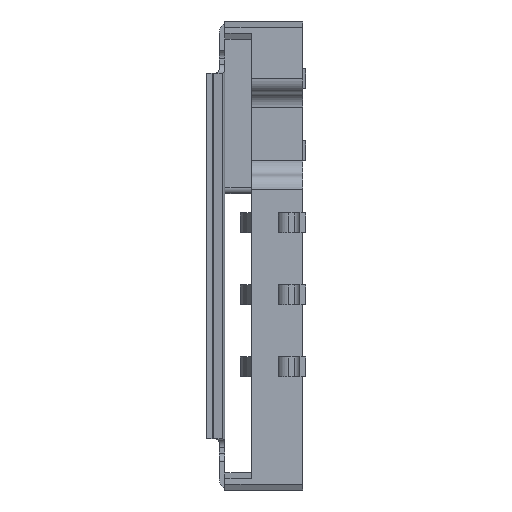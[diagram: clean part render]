
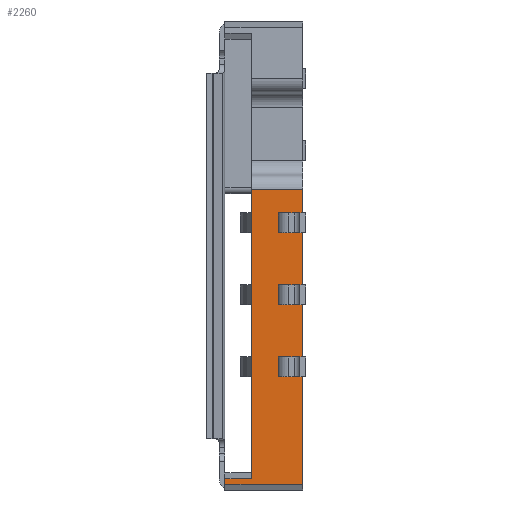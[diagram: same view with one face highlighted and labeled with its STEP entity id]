
A CAD part, left-side view. The second image highlights one B-rep face of the part: STEP entity #2260.
In plain terms, the highlighted planar face has unit normal (-1, 0, 0).
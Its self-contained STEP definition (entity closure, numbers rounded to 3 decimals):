
#602 = VERTEX_POINT ( 'NONE', #4062 ) ;
#604 = EDGE_CURVE ( 'NONE', #602, #605, #4061, .T. ) ;
#605 = VERTEX_POINT ( 'NONE', #4057 ) ;
#1389 = VERTEX_POINT ( 'NONE', #5787 ) ;
#1390 = ORIENTED_EDGE ( 'NONE', *, *, #1394, .T. ) ;
#1391 = ORIENTED_EDGE ( 'NONE', *, *, #1392, .T. ) ;
#1392 = EDGE_CURVE ( 'NONE', #1395, #1937, #5786, .T. ) ;
#1393 = EDGE_CURVE ( 'NONE', #1389, #1938, #5782, .T. ) ;
#1394 = EDGE_CURVE ( 'NONE', #1389, #1395, #5841, .T. ) ;
#1395 = VERTEX_POINT ( 'NONE', #5837 ) ;
#1933 = ORIENTED_EDGE ( 'NONE', *, *, #1935, .T. ) ;
#1934 = ORIENTED_EDGE ( 'NONE', *, *, #1936, .T. ) ;
#1935 = EDGE_CURVE ( 'NONE', #1941, #2311, #7418, .T. ) ;
#1936 = EDGE_CURVE ( 'NONE', #1937, #1938, #7414, .T. ) ;
#1937 = VERTEX_POINT ( 'NONE', #7410 ) ;
#1938 = VERTEX_POINT ( 'NONE', #7409 ) ;
#1939 = ORIENTED_EDGE ( 'NONE', *, *, #1393, .F. ) ;
#1940 = EDGE_LOOP ( 'NONE', ( #1934, #1939, #1390, #1391 ) ) ;
#1941 = VERTEX_POINT ( 'NONE', #7467 ) ;
#2255 = VERTEX_POINT ( 'NONE', #8057 ) ;
#2256 = ORIENTED_EDGE ( 'NONE', *, *, #2257, .T. ) ;
#2257 = EDGE_CURVE ( 'NONE', #2255, #2332, #8056, .T. ) ;
#2258 = EDGE_CURVE ( 'NONE', #2328, #2334, #8052, .T. ) ;
#2259 = EDGE_CURVE ( 'NONE', #2255, #2334, #8048, .T. ) ;
#2260 = ADVANCED_FACE ( 'NONE', ( #8109, #8108, #8107, #8106 ), #8105, .F. ) ;
#2261 = EDGE_LOOP ( 'NONE', ( #2333, #2335, #2256, #2329 ) ) ;
#2301 = ORIENTED_EDGE ( 'NONE', *, *, #2302, .T. ) ;
#2302 = EDGE_CURVE ( 'NONE', #2307, #1941, #8174, .T. ) ;
#2303 = VERTEX_POINT ( 'NONE', #8170 ) ;
#2304 = ORIENTED_EDGE ( 'NONE', *, *, #604, .F. ) ;
#2305 = ORIENTED_EDGE ( 'NONE', *, *, #2308, .F. ) ;
#2306 = EDGE_CURVE ( 'NONE', #2320, #2307, #8169, .T. ) ;
#2307 = VERTEX_POINT ( 'NONE', #8165 ) ;
#2308 = EDGE_CURVE ( 'NONE', #2317, #602, #8164, .T. ) ;
#2309 = ORIENTED_EDGE ( 'NONE', *, *, #2306, .T. ) ;
#2310 = ORIENTED_EDGE ( 'NONE', *, *, #2314, .T. ) ;
#2311 = VERTEX_POINT ( 'NONE', #8160 ) ;
#2312 = VERTEX_POINT ( 'NONE', #8159 ) ;
#2313 = VERTEX_POINT ( 'NONE', #8158 ) ;
#2314 = EDGE_CURVE ( 'NONE', #2312, #2313, #8157, .T. ) ;
#2315 = ORIENTED_EDGE ( 'NONE', *, *, #2316, .T. ) ;
#2316 = EDGE_CURVE ( 'NONE', #2303, #2312, #8153, .T. ) ;
#2317 = VERTEX_POINT ( 'NONE', #8149 ) ;
#2318 = EDGE_CURVE ( 'NONE', #2320, #2311, #8148, .T. ) ;
#2319 = EDGE_CURVE ( 'NONE', #2303, #2317, #8205, .T. ) ;
#2320 = VERTEX_POINT ( 'NONE', #8201 ) ;
#2321 = ORIENTED_EDGE ( 'NONE', *, *, #2319, .F. ) ;
#2322 = EDGE_CURVE ( 'NONE', #605, #2313, #8200, .T. ) ;
#2323 = EDGE_LOOP ( 'NONE', ( #2324, #2309, #2301, #1933 ) ) ;
#2324 = ORIENTED_EDGE ( 'NONE', *, *, #2318, .F. ) ;
#2325 = ORIENTED_EDGE ( 'NONE', *, *, #2322, .F. ) ;
#2328 = VERTEX_POINT ( 'NONE', #8192 ) ;
#2329 = ORIENTED_EDGE ( 'NONE', *, *, #2330, .T. ) ;
#2330 = EDGE_CURVE ( 'NONE', #2332, #2328, #8191, .T. ) ;
#2331 = EDGE_LOOP ( 'NONE', ( #2310, #2325, #2304, #2305, #2321, #2315 ) ) ;
#2332 = VERTEX_POINT ( 'NONE', #8187 ) ;
#2333 = ORIENTED_EDGE ( 'NONE', *, *, #2258, .T. ) ;
#2334 = VERTEX_POINT ( 'NONE', #8186 ) ;
#2335 = ORIENTED_EDGE ( 'NONE', *, *, #2259, .F. ) ;
#4057 = CARTESIAN_POINT ( 'NONE',  ( -5.9, 1.9, 2.45 ) ) ;
#4058 = DIRECTION ( 'NONE',  ( 0., 0., 1. ) ) ;
#4059 = VECTOR ( 'NONE', #4058, 1000. ) ;
#4060 = CARTESIAN_POINT ( 'NONE',  ( -5.9, 1.9, -7.95 ) ) ;
#4061 = LINE ( 'NONE', #4060, #4059 ) ;
#4062 = CARTESIAN_POINT ( 'NONE',  ( -5.9, 1.9, -7.75 ) ) ;
#5780 = VECTOR ( 'NONE', #5842, 1000. ) ;
#5781 = CARTESIAN_POINT ( 'NONE',  ( -5.9, 0.4, 0.92 ) ) ;
#5782 = LINE ( 'NONE', #5781, #5780 ) ;
#5783 = DIRECTION ( 'NONE',  ( 0., -1., 0. ) ) ;
#5784 = VECTOR ( 'NONE', #5783, 1000. ) ;
#5785 = CARTESIAN_POINT ( 'NONE',  ( -5.9, 0.4, 1.62 ) ) ;
#5786 = LINE ( 'NONE', #5785, #5784 ) ;
#5787 = CARTESIAN_POINT ( 'NONE',  ( -5.9, 0.96, 0.92 ) ) ;
#5837 = CARTESIAN_POINT ( 'NONE',  ( -5.9, 0.96, 1.62 ) ) ;
#5838 = DIRECTION ( 'NONE',  ( 0., 0., 1. ) ) ;
#5839 = VECTOR ( 'NONE', #5838, 1000. ) ;
#5840 = CARTESIAN_POINT ( 'NONE',  ( -5.9, 0.96, 1.62 ) ) ;
#5841 = LINE ( 'NONE', #5840, #5839 ) ;
#5842 = DIRECTION ( 'NONE',  ( 0., -1., 0. ) ) ;
#7409 = CARTESIAN_POINT ( 'NONE',  ( -5.9, 0.697, 0.92 ) ) ;
#7410 = CARTESIAN_POINT ( 'NONE',  ( -5.9, 0.697, 1.62 ) ) ;
#7411 = DIRECTION ( 'NONE',  ( 0., 0., -1. ) ) ;
#7412 = VECTOR ( 'NONE', #7411, 1000. ) ;
#7413 = CARTESIAN_POINT ( 'NONE',  ( -5.9, 0.697, 1.62 ) ) ;
#7414 = LINE ( 'NONE', #7413, #7412 ) ;
#7415 = DIRECTION ( 'NONE',  ( 0., 0., -1. ) ) ;
#7416 = VECTOR ( 'NONE', #7415, 1000. ) ;
#7417 = CARTESIAN_POINT ( 'NONE',  ( -5.9, 0.697, -3.46 ) ) ;
#7418 = LINE ( 'NONE', #7417, #7416 ) ;
#7467 = CARTESIAN_POINT ( 'NONE',  ( -5.9, 0.697, -3.46 ) ) ;
#8047 = CARTESIAN_POINT ( 'NONE',  ( -5.9, 0.4, -1.62 ) ) ;
#8048 = LINE ( 'NONE', #8047, #8111 ) ;
#8049 = DIRECTION ( 'NONE',  ( 0., 0., -1. ) ) ;
#8050 = VECTOR ( 'NONE', #8049, 1000. ) ;
#8051 = CARTESIAN_POINT ( 'NONE',  ( -5.9, 0.697, -0.92 ) ) ;
#8052 = LINE ( 'NONE', #8051, #8050 ) ;
#8053 = DIRECTION ( 'NONE',  ( 0., 0., 1. ) ) ;
#8054 = VECTOR ( 'NONE', #8053, 1000. ) ;
#8055 = CARTESIAN_POINT ( 'NONE',  ( -5.9, 0.96, -0.92 ) ) ;
#8056 = LINE ( 'NONE', #8055, #8054 ) ;
#8057 = CARTESIAN_POINT ( 'NONE',  ( -5.9, 0.96, -1.62 ) ) ;
#8100 = DIRECTION ( 'NONE',  ( 0., 0., -1. ) ) ;
#8101 = DIRECTION ( 'NONE',  ( 1., 0., 0. ) ) ;
#8102 = CARTESIAN_POINT ( 'NONE',  ( -5.9, 1.9, -7.95 ) ) ;
#8104 = AXIS2_PLACEMENT_3D ( 'NONE', #8102, #8101, #8100 ) ;
#8105 = PLANE ( 'NONE',  #8104 ) ;
#8106 = FACE_BOUND ( 'NONE', #1940, .T. ) ;
#8107 = FACE_BOUND ( 'NONE', #2323, .T. ) ;
#8108 = FACE_OUTER_BOUND ( 'NONE', #2331, .T. ) ;
#8109 = FACE_BOUND ( 'NONE', #2261, .T. ) ;
#8110 = DIRECTION ( 'NONE',  ( 0., -1., 0. ) ) ;
#8111 = VECTOR ( 'NONE', #8110, 1000. ) ;
#8145 = DIRECTION ( 'NONE',  ( 0., -1., 0. ) ) ;
#8146 = VECTOR ( 'NONE', #8145, 1000. ) ;
#8147 = CARTESIAN_POINT ( 'NONE',  ( -5.9, 0.4, -4.16 ) ) ;
#8148 = LINE ( 'NONE', #8147, #8146 ) ;
#8149 = CARTESIAN_POINT ( 'NONE',  ( -5.9, 2.85, -7.75 ) ) ;
#8150 = DIRECTION ( 'NONE',  ( 0., -1., 0. ) ) ;
#8151 = VECTOR ( 'NONE', #8150, 1000. ) ;
#8152 = CARTESIAN_POINT ( 'NONE',  ( -5.9, 1.9, -7.95 ) ) ;
#8153 = LINE ( 'NONE', #8152, #8151 ) ;
#8154 = DIRECTION ( 'NONE',  ( 0., 0., 1. ) ) ;
#8155 = VECTOR ( 'NONE', #8154, 1000. ) ;
#8156 = CARTESIAN_POINT ( 'NONE',  ( -5.9, 0.1, -7.95 ) ) ;
#8157 = LINE ( 'NONE', #8156, #8155 ) ;
#8158 = CARTESIAN_POINT ( 'NONE',  ( -5.9, 0.1, 2.45 ) ) ;
#8159 = CARTESIAN_POINT ( 'NONE',  ( -5.9, 0.1, -7.95 ) ) ;
#8160 = CARTESIAN_POINT ( 'NONE',  ( -5.9, 0.697, -4.16 ) ) ;
#8161 = DIRECTION ( 'NONE',  ( 0., -1., 0. ) ) ;
#8162 = VECTOR ( 'NONE', #8161, 1000. ) ;
#8163 = CARTESIAN_POINT ( 'NONE',  ( -5.9, 22.665, -7.75 ) ) ;
#8164 = LINE ( 'NONE', #8163, #8162 ) ;
#8165 = CARTESIAN_POINT ( 'NONE',  ( -5.9, 0.96, -3.46 ) ) ;
#8166 = DIRECTION ( 'NONE',  ( 0., 0., 1. ) ) ;
#8167 = VECTOR ( 'NONE', #8166, 1000. ) ;
#8168 = CARTESIAN_POINT ( 'NONE',  ( -5.9, 0.96, -3.46 ) ) ;
#8169 = LINE ( 'NONE', #8168, #8167 ) ;
#8170 = CARTESIAN_POINT ( 'NONE',  ( -5.9, 2.85, -7.95 ) ) ;
#8171 = DIRECTION ( 'NONE',  ( 0., -1., 0. ) ) ;
#8172 = VECTOR ( 'NONE', #8171, 1000. ) ;
#8173 = CARTESIAN_POINT ( 'NONE',  ( -5.9, 0.4, -3.46 ) ) ;
#8174 = LINE ( 'NONE', #8173, #8172 ) ;
#8186 = CARTESIAN_POINT ( 'NONE',  ( -5.9, 0.697, -1.62 ) ) ;
#8187 = CARTESIAN_POINT ( 'NONE',  ( -5.9, 0.96, -0.92 ) ) ;
#8188 = DIRECTION ( 'NONE',  ( 0., -1., 0. ) ) ;
#8189 = VECTOR ( 'NONE', #8188, 1000. ) ;
#8190 = CARTESIAN_POINT ( 'NONE',  ( -5.9, 0.4, -0.92 ) ) ;
#8191 = LINE ( 'NONE', #8190, #8189 ) ;
#8192 = CARTESIAN_POINT ( 'NONE',  ( -5.9, 0.697, -0.92 ) ) ;
#8197 = DIRECTION ( 'NONE',  ( 0., -1., 0. ) ) ;
#8198 = VECTOR ( 'NONE', #8197, 1000. ) ;
#8199 = CARTESIAN_POINT ( 'NONE',  ( -5.9, 1.9, 2.45 ) ) ;
#8200 = LINE ( 'NONE', #8199, #8198 ) ;
#8201 = CARTESIAN_POINT ( 'NONE',  ( -5.9, 0.96, -4.16 ) ) ;
#8202 = DIRECTION ( 'NONE',  ( 0., 0., 1. ) ) ;
#8203 = VECTOR ( 'NONE', #8202, 1000. ) ;
#8204 = CARTESIAN_POINT ( 'NONE',  ( -5.9, 2.85, -7.95 ) ) ;
#8205 = LINE ( 'NONE', #8204, #8203 ) ;
